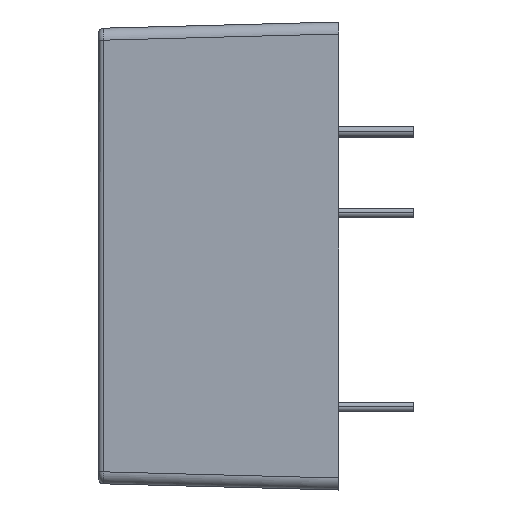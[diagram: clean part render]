
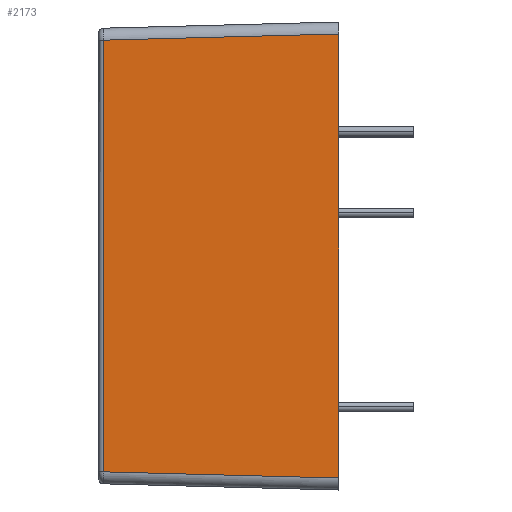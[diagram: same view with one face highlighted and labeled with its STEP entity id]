
A CAD part, left-side view. The second image highlights one B-rep face of the part: STEP entity #2173.
In plain terms, the highlighted planar face has unit normal (-1, 0.026, 0).
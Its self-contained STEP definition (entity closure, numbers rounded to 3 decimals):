
#487=CARTESIAN_POINT('',(-54.5,0.,27.75));
#551=CARTESIAN_POINT('',(-54.5,0.,
-27.75));
#556=DIRECTION('',(0.,0.,1.));
#557=VECTOR('',#556,55.501);
#558=CARTESIAN_POINT('',(-54.5,0.,
-27.75));
#559=LINE('',#558,#557);
#715=CARTESIAN_POINT('',(-53.73,29.416,26.98));
#947=DIRECTION('',(0.,0.,-1.));
#948=VECTOR('',#947,53.96);
#949=CARTESIAN_POINT('',(-53.73,29.416,26.98));
#950=LINE('',#949,#948);
#954=DIRECTION('',(-0.026,-0.999,0.026));
#955=VECTOR('',#954,29.436);
#956=CARTESIAN_POINT('',(-53.73,29.416,26.98));
#957=LINE('',#956,#955);
#961=DIRECTION('',(0.026,0.999,0.026));
#962=VECTOR('',#961,29.436);
#963=CARTESIAN_POINT('',(-54.5,0.,
-27.75));
#964=LINE('',#963,#962);
#1544=VERTEX_POINT('',#487);
#1554=VERTEX_POINT('',#551);
#1571=VERTEX_POINT('',#715);
#1603=CARTESIAN_POINT('',(-53.73,29.416,
-26.98));
#1604=VERTEX_POINT('',#1603);
#2161=CARTESIAN_POINT('',(-54.115,14.708,
0.));
#2162=DIRECTION('',(1.,-0.026,0.));
#2163=DIRECTION('',(0.,0.,-1.));
#2164=AXIS2_PLACEMENT_3D('',#2161,#2162,#2163);
#2165=PLANE('',#2164);
#2166=ORIENTED_EDGE('',*,*,#2148,.F.);
#2167=ORIENTED_EDGE('',*,*,#1997,.T.);
#2168=ORIENTED_EDGE('',*,*,#1923,.F.);
#2170=ORIENTED_EDGE('',*,*,#2169,.T.);
#2171=EDGE_LOOP('',(#2166,#2167,#2168,#2170));
#2172=FACE_OUTER_BOUND('',#2171,.F.);
#2173=ADVANCED_FACE('',(#2172),#2165,.F.);
#1923=EDGE_CURVE('',#1554,#1544,#559,.T.);
#1997=EDGE_CURVE('',#1571,#1544,#957,.T.);
#2148=EDGE_CURVE('',#1571,#1604,#950,.T.);
#2169=EDGE_CURVE('',#1554,#1604,#964,.T.);
